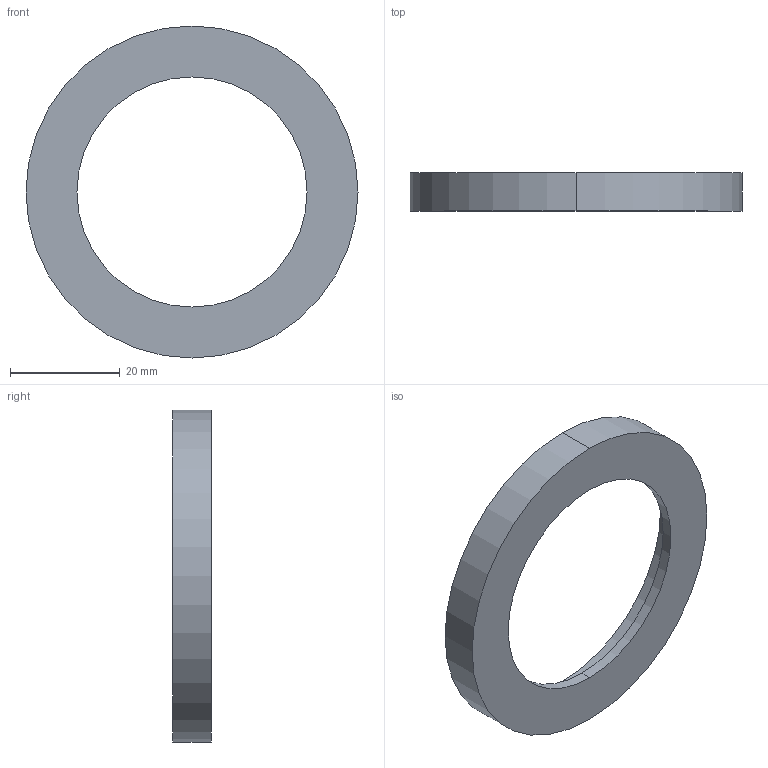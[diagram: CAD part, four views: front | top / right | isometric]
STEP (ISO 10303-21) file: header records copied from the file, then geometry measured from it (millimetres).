
FILE_DESCRIPTION (( 'STEP AP214' ), '1' );
FILE_NAME ('2026_4_2_インターロックパッキン下.STEP', '2026-04-09T08:35:57', ( '' ), ( '' ), 'SwSTEP 2.0', 'SolidWorks 2025', '' );
FILE_SCHEMA (( 'AUTOMOTIVE_DESIGN' ));
Length unit declared in the file: millimetre
Products named in the file (1): 2026_4_2_インターロックパッキン下
Bounding box: 60.6 x 7 x 60.6 mm (x, y, z)
Volume: 6280.1 mm3; surface area: 6264 mm2
Topology: 1 solids, 1 shells, 12 faces, 24 edges, 16 vertices
Faces by surface type: cylinder 8, plane 4
Entity records: 351 total; most frequent: DIRECTION 66, CARTESIAN_POINT 53, ORIENTED_EDGE 48, AXIS2_PLACEMENT_3D 29, EDGE_CURVE 24, VERTEX_POINT 16, EDGE_LOOP 16, CIRCLE 16
